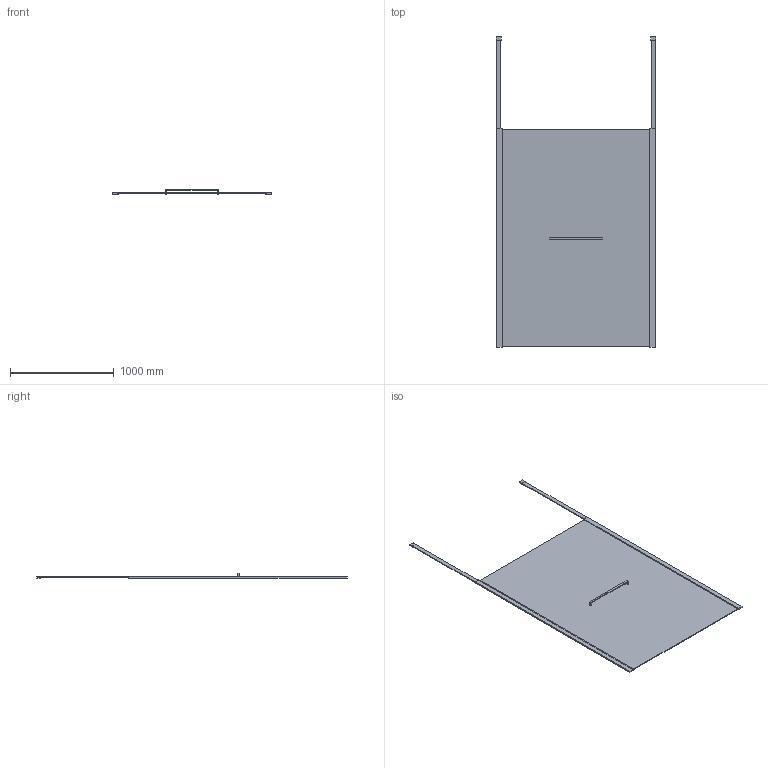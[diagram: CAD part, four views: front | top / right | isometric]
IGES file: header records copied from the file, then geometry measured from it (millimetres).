
Start section: SolidWorks IGES file using analytic representation for surfaces
Global section: file name: D:\Users\M.Szymanski\Desktop\Kabiny\PII_ALT2\03. do przegrania\PII_ALTIIa_150_wspornik pionowy_K3D.IGS; native system: SolidWorks 2011; preprocessor: SolidWorks 2011; author: M.Szymanski; date: 181003.110008; units: millimetre
Bounding box: 1539.8 x 3000 x 54.5 mm (x, y, z)
Surface area: 7000399.2 mm2 (no closed solid volume)
Topology: 0 solids, 0 shells, 61 faces, 396 edges, 528 vertices
Faces by surface type: bspline 61
